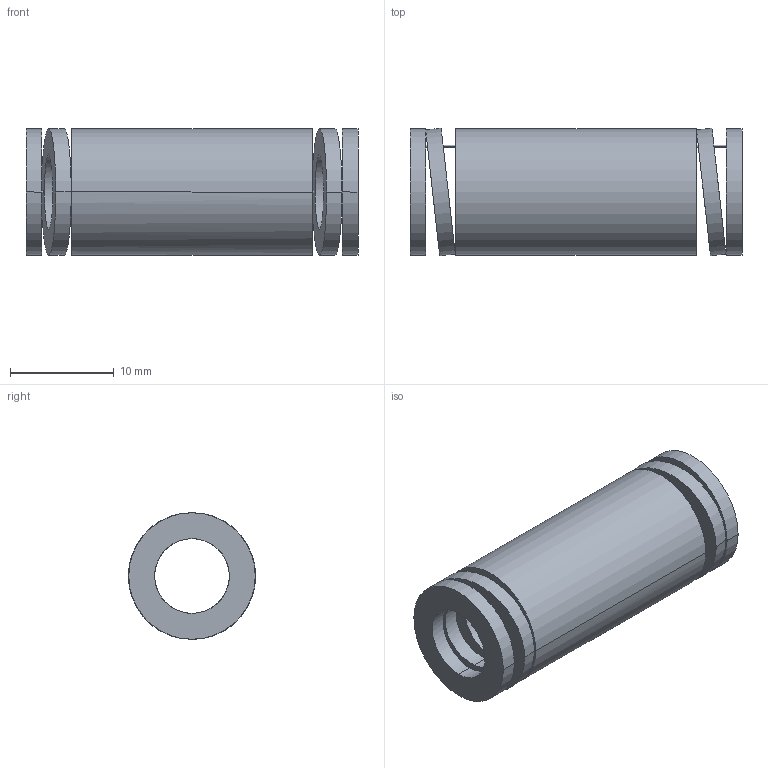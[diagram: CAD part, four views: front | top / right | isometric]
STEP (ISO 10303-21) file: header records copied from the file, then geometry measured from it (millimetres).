
FILE_DESCRIPTION(('CATIA V5 STEP Exchange'),'2;1');
FILE_NAME('C:\Users\Utente\Desktop\IO LAVORO\3D X SITO CF\X SITO\3D files 392B\392-B13-032.stp','2021-08-12T12:50:25+00:00',('none'),('none'),'CATIA Version 5 Release 20 GA (IN-10)','CATIA V5 STEP AP203','none');
FILE_SCHEMA(('CONFIG_CONTROL_DESIGN'));
Length unit declared in the file: millimetre
Products named in the file (1): 392-B13-032
Bounding box: 32 x 12.29 x 12.2 mm (x, y, z)
Volume: 2223.9 mm3; surface area: 2542.4 mm2
Topology: 1 solids, 1 shells, 38 faces, 92 edges, 64 vertices
Faces by surface type: cylinder 28, plane 10
Entity records: 1563 total; most frequent: CARTESIAN_POINT 670, ORIENTED_EDGE 184, DIRECTION 131, EDGE_CURVE 92, AXIS2_PLACEMENT_3D 66, VERTEX_POINT 64, EDGE_LOOP 56, ADVANCED_FACE 38
